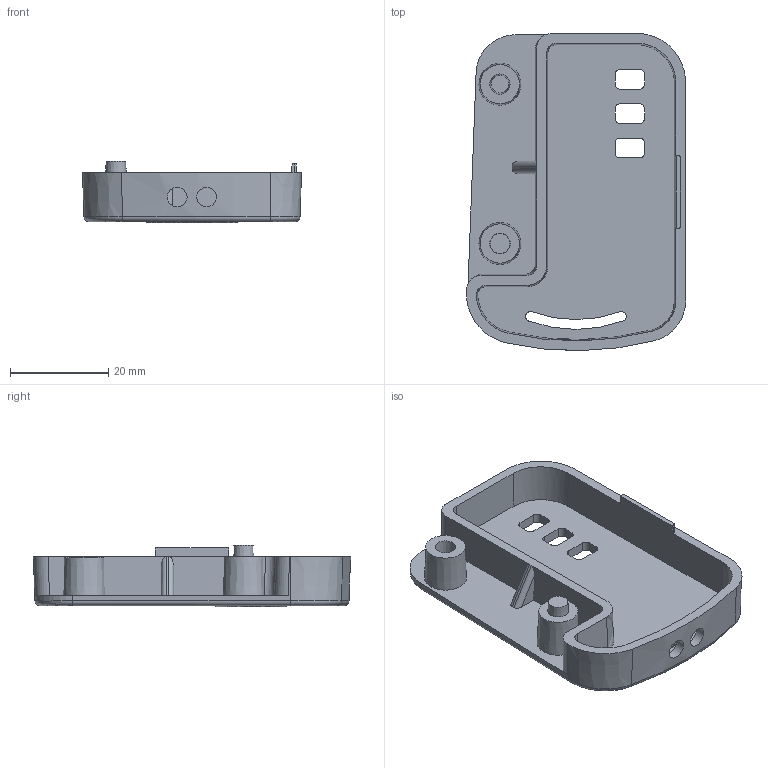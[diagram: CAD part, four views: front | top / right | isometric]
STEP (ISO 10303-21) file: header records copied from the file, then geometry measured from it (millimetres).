
FILE_DESCRIPTION(/* description */ (''),/* implementation_level */ '2;1');
FILE_NAME(/* name */ 'E:\塑料模具\现代模具制造技术\车钥匙\车钥匙上盖.stp',/* time_stamp */ '2021-12-02T16:01:47+08:00',/* author */ ('Administrator'),/* organization */ (''),/* preprocessor_version */ 'ST-DEVELOPER v18',/* originating_system */ 'Autodesk Inventor 2020',/* authorisation */ '');
FILE_SCHEMA (('AUTOMOTIVE_DESIGN { 1 0 10303 214 3 1 1 }'));
Length unit declared in the file: millimetre
Products named in the file (1): 上
Bounding box: 44.68 x 64.69 x 12.5 mm (x, y, z)
Volume: 9111.9 mm3; surface area: 9273.8 mm2
Topology: 1 solids, 1 shells, 99 faces, 268 edges, 177 vertices
Faces by surface type: plane 42, cylinder 28, cone 14, bspline 8, torus 7
Full cylindrical faces by diameter (mm): 4 x2
Entity records: 4025 total; most frequent: CARTESIAN_POINT 1475, ORIENTED_EDGE 536, DIRECTION 507, EDGE_CURVE 268, AXIS2_PLACEMENT_3D 189, VERTEX_POINT 177, LINE 129, VECTOR 129
